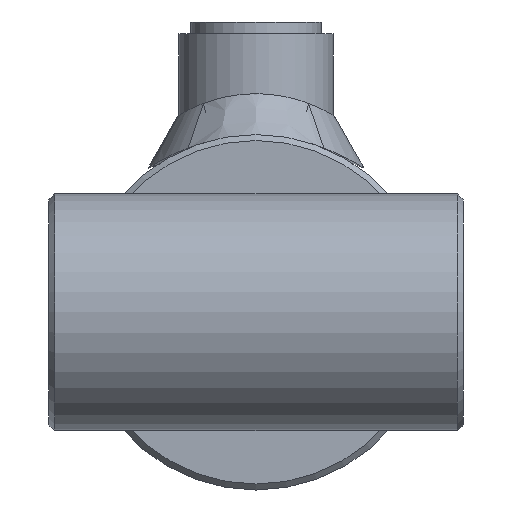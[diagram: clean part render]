
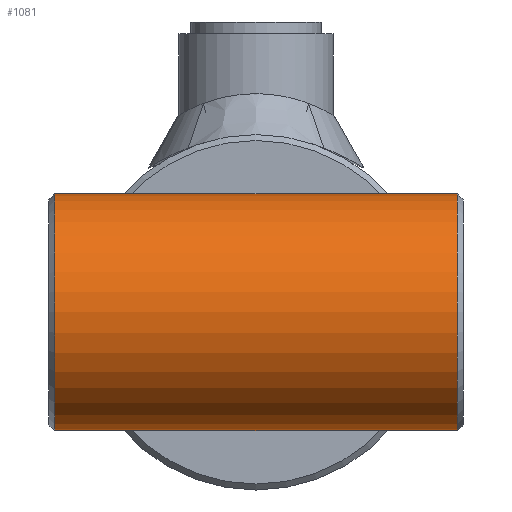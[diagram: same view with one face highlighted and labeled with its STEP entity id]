
A CAD part, left-side view. The second image highlights one B-rep face of the part: STEP entity #1081.
In plain terms, the highlighted cylindrical face has radius 20 mm (diameter 40 mm), a full revolution.
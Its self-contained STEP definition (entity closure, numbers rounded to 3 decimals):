
#1081 = ADVANCED_FACE( '', ( #2068, #2069 ), #2070, .T. );
#2068 = FACE_OUTER_BOUND( '', #7132, .T. );
#2069 = FACE_OUTER_BOUND( '', #7133, .T. );
#2070 = CYLINDRICAL_SURFACE( '', #7134, 20. );
#7132 = EDGE_LOOP( '', ( #11868 ) );
#7133 = EDGE_LOOP( '', ( #11869 ) );
#7134 = AXIS2_PLACEMENT_3D( '', #11870, #11871, #11872 );
#11868 = ORIENTED_EDGE( '', *, *, #13206, .T. );
#11869 = ORIENTED_EDGE( '', *, *, #12947, .T. );
#11870 = CARTESIAN_POINT( '', ( 0., -35., 0. ) );
#11871 = DIRECTION( '', ( 0., -1., 0. ) );
#11872 = DIRECTION( '', ( 0., 0., 1. ) );
#12947 = EDGE_CURVE( '', #13980, #13980, #13981, .T. );
#13206 = EDGE_CURVE( '', #14345, #14345, #14346, .F. );
#13980 = VERTEX_POINT( '', #16011 );
#13981 = CIRCLE( '', #16012, 20. );
#14345 = VERTEX_POINT( '', #17529 );
#14346 = CIRCLE( '', #17530, 20. );
#16011 = CARTESIAN_POINT( '', ( 0., -34., 20. ) );
#16012 = AXIS2_PLACEMENT_3D( '', #18571, #18572, #18573 );
#17529 = CARTESIAN_POINT( '', ( 0., 34., 20. ) );
#17530 = AXIS2_PLACEMENT_3D( '', #18772, #18773, #18774 );
#18571 = CARTESIAN_POINT( '', ( 0., -34., 0. ) );
#18572 = DIRECTION( '', ( 0., 1., 0. ) );
#18573 = DIRECTION( '', ( 0., 0., 1. ) );
#18772 = CARTESIAN_POINT( '', ( 0., 34., 0. ) );
#18773 = DIRECTION( '', ( 0., 1., 0. ) );
#18774 = DIRECTION( '', ( 0., 0., 1. ) );
